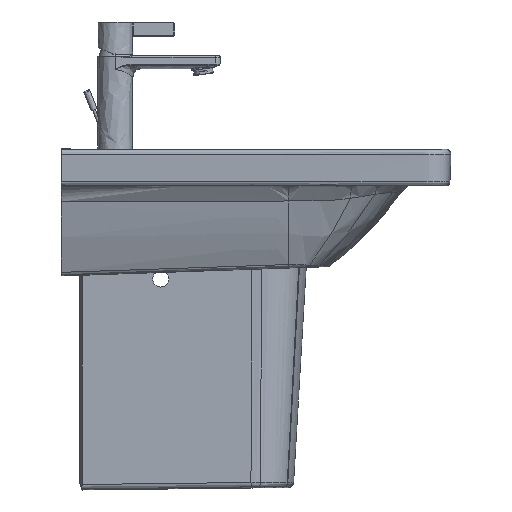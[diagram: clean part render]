
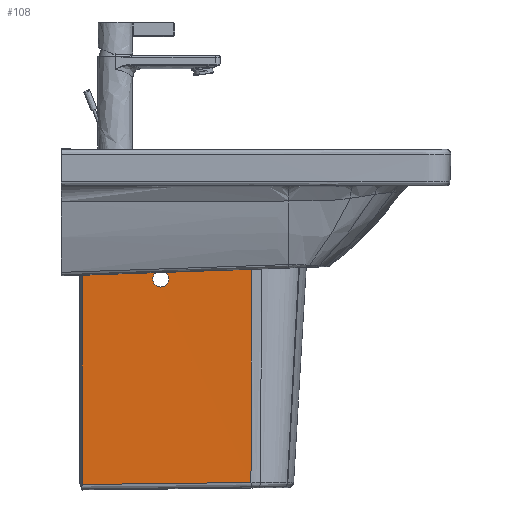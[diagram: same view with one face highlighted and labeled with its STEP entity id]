
A CAD part, left-side view. The second image highlights one B-rep face of the part: STEP entity #108.
In plain terms, the highlighted free-form (B-spline) face has degree [1, 5] with [2, 6] control points.
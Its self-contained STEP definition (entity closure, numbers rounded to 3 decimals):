
#47=FACE_BOUND('',#1494,.T.);
#108=ADVANCED_FACE('',(#799,#47),#10039,.T.);
#799=FACE_OUTER_BOUND('',#1493,.T.);
#1493=EDGE_LOOP('',(#2335,#2336,#2337,#2338));
#1494=EDGE_LOOP('',(#2339,#2340));
#2335=ORIENTED_EDGE('',*,*,#5588,.F.);
#2336=ORIENTED_EDGE('',*,*,#5542,.F.);
#2337=ORIENTED_EDGE('',*,*,#5587,.T.);
#2338=ORIENTED_EDGE('',*,*,#5611,.F.);
#2339=ORIENTED_EDGE('',*,*,#5644,.F.);
#2340=ORIENTED_EDGE('',*,*,#5641,.F.);
#5542=EDGE_CURVE('',#8888,#8889,#7507,.T.);
#5587=EDGE_CURVE('',#8888,#8923,#7549,.T.);
#5588=EDGE_CURVE('',#8889,#8924,#7550,.T.);
#5611=EDGE_CURVE('',#8924,#8923,#7573,.T.);
#5641=EDGE_CURVE('',#8926,#8925,#7603,.T.);
#5644=EDGE_CURVE('',#8925,#8926,#7606,.T.);
#7507=B_SPLINE_CURVE_WITH_KNOTS('',1,(#13860,#13861),.UNSPECIFIED.,.F.,
 .F.,(2,2),(0.,208.052),.UNSPECIFIED.);
#7549=B_SPLINE_CURVE_WITH_KNOTS('',5,(#14209,#14210,#14211,#14212,#14213,
#14214,#14215,#14216,#14217),.UNSPECIFIED.,.F.,.F.,(6,3,6),(82.052,
227.204,365.293),.UNSPECIFIED.);
#7550=B_SPLINE_CURVE_WITH_KNOTS('',1,(#14218,#14219),.UNSPECIFIED.,.F.,
 .F.,(2,2),(-290.099,-9.282),.UNSPECIFIED.);
#7573=B_SPLINE_CURVE_WITH_KNOTS('',4,(#14359,#14360,#14361,#14362,#14363),
 .UNSPECIFIED.,.F.,.F.,(5,5),(-104.033,104.033),
 .UNSPECIFIED.);
#7603=B_SPLINE_CURVE_WITH_KNOTS('',3,(#14664,#14665,#14666,#14667,#14668,
#14669,#14670,#14671,#14672,#14673,#14674,#14675,#14676,#14677,#14678,#14679,
#14680,#14681),.UNSPECIFIED.,.F.,.F.,(4,2,2,2,2,2,2,2,4),(-44.437,
-38.896,-33.354,-27.811,-22.264,
-16.676,-11.086,-5.539,0.),.UNSPECIFIED.);
#7606=B_SPLINE_CURVE_WITH_KNOTS('',3,(#14702,#14703,#14704,#14705,#14706,
#14707,#14708,#14709,#14710,#14711,#14712,#14713,#14714,#14715,#14716,#14717,
#14718,#14719),.UNSPECIFIED.,.F.,.F.,(4,2,2,2,2,2,2,2,4),(-44.437,
-38.892,-33.347,-27.782,-22.225,
-16.647,-11.062,-5.529,0.),.UNSPECIFIED.);
#8888=VERTEX_POINT('',#13587);
#8889=VERTEX_POINT('',#13588);
#8923=VERTEX_POINT('',#13622);
#8924=VERTEX_POINT('',#13623);
#8925=VERTEX_POINT('',#13624);
#8926=VERTEX_POINT('',#13625);
#10039=B_SPLINE_SURFACE_WITH_KNOTS('',1,5,((#11633,#11634,#11635,#11636,
#11637,#11638),(#11639,#11640,#11641,#11642,#11643,#11644)),
 .UNSPECIFIED.,.F.,.F.,.F.,(2,2),(6,6),(0.,290.099),(0.,211.052),
 .UNSPECIFIED.);
#11633=CARTESIAN_POINT('',(-76.283,6.167,-75.726));
#11634=CARTESIAN_POINT('',(-76.783,48.375,-75.726));
#11635=CARTESIAN_POINT('',(-77.283,90.582,-75.726));
#11636=CARTESIAN_POINT('',(-77.783,132.79,-75.726));
#11637=CARTESIAN_POINT('',(-78.283,174.997,-75.726));
#11638=CARTESIAN_POINT('',(-78.783,217.205,-75.726));
#11639=CARTESIAN_POINT('',(-83.933,6.077,214.274));
#11640=CARTESIAN_POINT('',(-84.402,48.285,214.274));
#11641=CARTESIAN_POINT('',(-84.872,90.492,214.274));
#11642=CARTESIAN_POINT('',(-85.342,132.7,214.274));
#11643=CARTESIAN_POINT('',(-85.812,174.908,214.274));
#11644=CARTESIAN_POINT('',(-86.282,217.116,214.274));
#13587=CARTESIAN_POINT('',(-86.249,214.116,214.274));
#13588=CARTESIAN_POINT('',(-83.933,6.077,214.274));
#13622=CARTESIAN_POINT('',(-78.925,214.203,-68.872));
#13623=CARTESIAN_POINT('',(-76.528,6.164,-66.447));
#13624=CARTESIAN_POINT('',(-84.499,127.205,184.274));
#13625=CARTESIAN_POINT('',(-84.274,107.205,184.274));
#13860=CARTESIAN_POINT('',(-86.249,214.116,214.274));
#13861=CARTESIAN_POINT('',(-83.933,6.077,214.274));
#14209=CARTESIAN_POINT('',(-86.249,214.116,214.274));
#14210=CARTESIAN_POINT('',(-85.498,214.125,185.253));
#14211=CARTESIAN_POINT('',(-84.747,214.134,156.233));
#14212=CARTESIAN_POINT('',(-83.997,214.143,127.212));
#14213=CARTESIAN_POINT('',(-82.532,214.16,70.583));
#14214=CARTESIAN_POINT('',(-81.067,214.177,13.953));
#14215=CARTESIAN_POINT('',(-80.353,214.186,-13.655));
#14216=CARTESIAN_POINT('',(-79.639,214.194,-41.264));
#14217=CARTESIAN_POINT('',(-78.925,214.203,-68.872));
#14218=CARTESIAN_POINT('',(-83.933,6.077,214.274));
#14219=CARTESIAN_POINT('',(-76.528,6.164,-66.447));
#14359=CARTESIAN_POINT('',(-76.528,6.164,-66.447));
#14360=CARTESIAN_POINT('',(-77.127,58.174,-67.053));
#14361=CARTESIAN_POINT('',(-77.726,110.184,-67.66));
#14362=CARTESIAN_POINT('',(-78.325,162.193,-68.266));
#14363=CARTESIAN_POINT('',(-78.925,214.203,-68.872));
#14664=CARTESIAN_POINT('',(-84.274,107.205,184.274));
#14665=CARTESIAN_POINT('',(-84.308,107.205,185.566));
#14666=CARTESIAN_POINT('',(-84.345,107.457,186.85));
#14667=CARTESIAN_POINT('',(-84.418,108.424,189.229));
#14668=CARTESIAN_POINT('',(-84.454,109.139,190.324));
#14669=CARTESIAN_POINT('',(-84.523,110.939,192.174));
#14670=CARTESIAN_POINT('',(-84.554,112.024,192.927));
#14671=CARTESIAN_POINT('',(-84.609,114.425,193.969));
#14672=CARTESIAN_POINT('',(-84.631,115.734,194.254));
#14673=CARTESIAN_POINT('',(-84.661,118.4,194.292));
#14674=CARTESIAN_POINT('',(-84.67,119.732,194.04));
#14675=CARTESIAN_POINT('',(-84.671,122.194,193.042));
#14676=CARTESIAN_POINT('',(-84.664,123.325,192.295));
#14677=CARTESIAN_POINT('',(-84.636,125.214,190.407));
#14678=CARTESIAN_POINT('',(-84.615,125.955,189.289));
#14679=CARTESIAN_POINT('',(-84.563,126.952,186.865));
#14680=CARTESIAN_POINT('',(-84.532,127.205,185.566));
#14681=CARTESIAN_POINT('',(-84.499,127.205,184.274));
#14702=CARTESIAN_POINT('',(-84.499,127.205,184.274));
#14703=CARTESIAN_POINT('',(-84.465,127.205,182.982));
#14704=CARTESIAN_POINT('',(-84.429,126.952,181.698));
#14705=CARTESIAN_POINT('',(-84.356,125.985,179.319));
#14706=CARTESIAN_POINT('',(-84.319,125.27,178.223));
#14707=CARTESIAN_POINT('',(-84.25,123.467,176.371));
#14708=CARTESIAN_POINT('',(-84.219,122.381,175.619));
#14709=CARTESIAN_POINT('',(-84.165,119.987,174.581));
#14710=CARTESIAN_POINT('',(-84.143,118.68,174.294));
#14711=CARTESIAN_POINT('',(-84.112,116.01,174.256));
#14712=CARTESIAN_POINT('',(-84.103,114.677,174.508));
#14713=CARTESIAN_POINT('',(-84.102,112.214,175.507));
#14714=CARTESIAN_POINT('',(-84.108,111.082,176.254));
#14715=CARTESIAN_POINT('',(-84.137,109.194,178.143));
#14716=CARTESIAN_POINT('',(-84.157,108.454,179.26));
#14717=CARTESIAN_POINT('',(-84.21,107.458,181.683));
#14718=CARTESIAN_POINT('',(-84.241,107.205,182.982));
#14719=CARTESIAN_POINT('',(-84.274,107.205,184.274));
